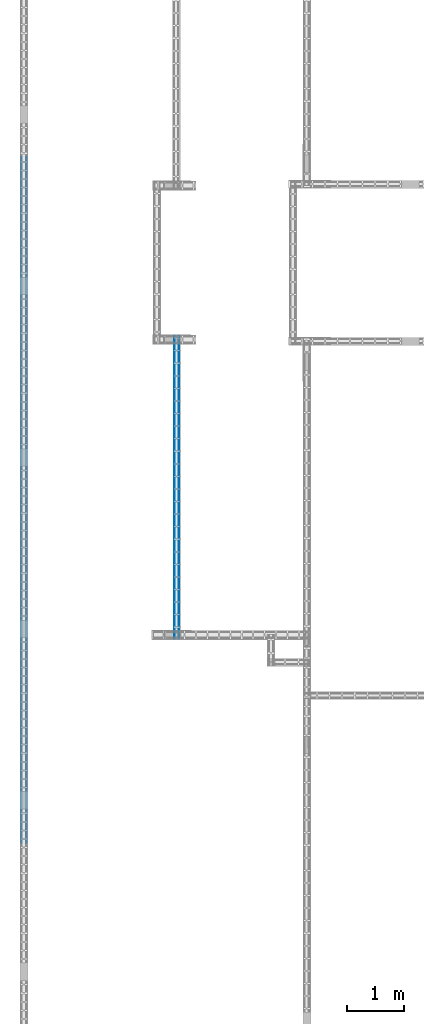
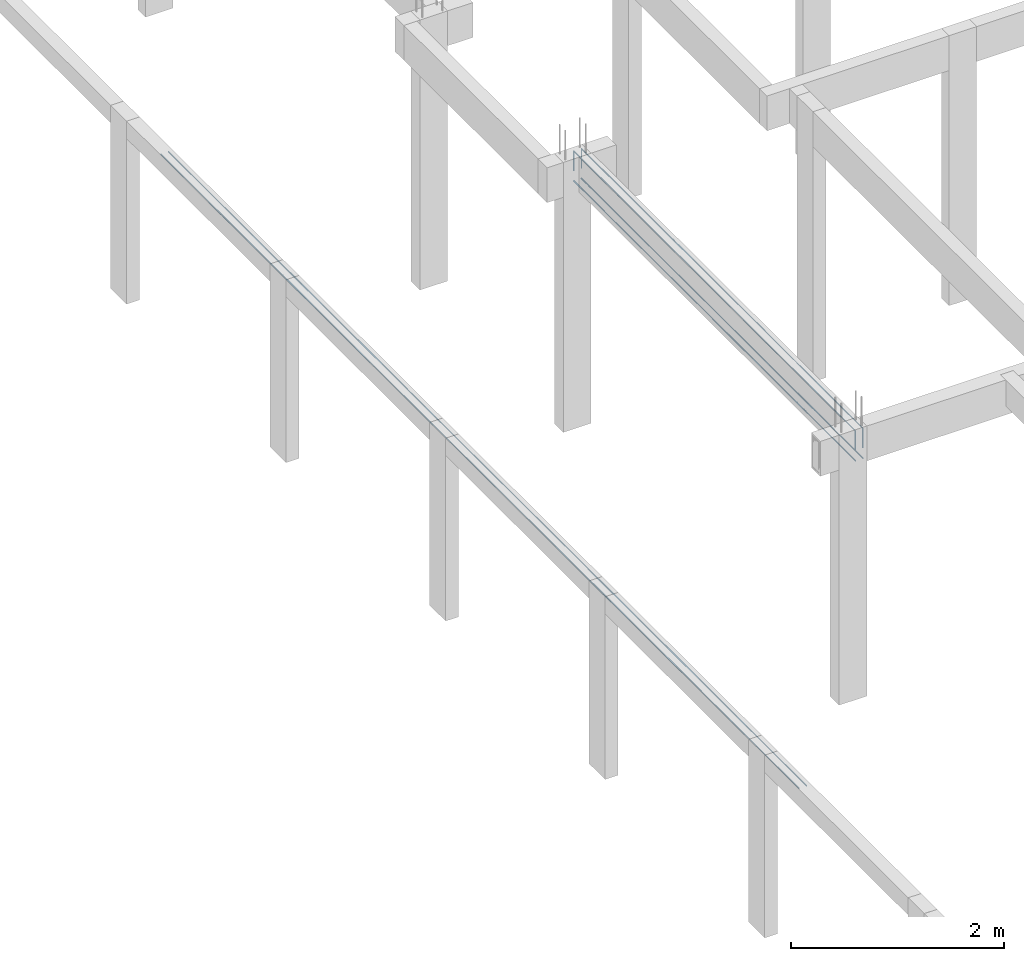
# One storey, part 67 of 236: 6 reinforcing bars.
"""IFC4 building model written with IfcOpenShell, lengths in centimetres."""

from ifc_helpers import new_model, entity, si_unit, derived_unit, frame, origin_with_axes, place, context, project, spatial, element, save


model = new_model("IFC4")

# Units and contexts
model_context = context("Model", 3, precision=1e-05, world=origin_with_axes(), identifier="Body")
ifc_project = project(units=[si_unit("LENGTHUNIT", "METRE", prefix="CENTI"), si_unit("VOLUMEUNIT", "CUBIC_METRE"), si_unit("AREAUNIT", "SQUARE_METRE"), si_unit("POWERUNIT", "WATT"), si_unit("LUMINOUSFLUXUNIT", "LUMEN"), si_unit("ELECTRICCURRENTUNIT", "AMPERE"), si_unit("PRESSUREUNIT", "PASCAL", prefix="KILO"), si_unit("MASSUNIT", "GRAM", prefix="KILO"), si_unit("PLANEANGLEUNIT", "RADIAN"), derived_unit("VOLUMETRICFLOWRATEUNIT", [(si_unit("LENGTHUNIT", "METRE"), 3), (si_unit("TIMEUNIT", "SECOND"), -1)])], contexts=[model_context])

# Site, building, storey
site_placement = place(None, frame((-4000.0, 0.0, 0.0), z_axis=(0.0, 0.0, 1.0), x_axis=(1.0, 0.0, 0.0)))
site = spatial("IfcSite", under=ifc_project, at=site_placement, Name="PADRÃO")
building_placement = place(site_placement, frame((0.0, 0.0, -14.0)))
building = spatial("IfcBuilding", under=site, at=building_placement, Name="CRECHE PRÉ-ESCOLA TIPO 2")
placement_1 = place(building_placement, origin_with_axes())
placement_2 = place(placement_1, frame((0.0, 0.0, 30.0), z_axis=(0.0, 0.0, 1.0), x_axis=(1.0, 0.0, 0.0)))
storey_placement = place(placement_2, frame((0.0, 0.0, 310.0), z_axis=(0.0, 0.0, 1.0), x_axis=(1.0, 0.0, 0.0)))
storey = spatial("IfcBuildingStorey", under=building, at=storey_placement, Name="TERREO", CompositionType="ELEMENT", Elevation=326.0)

# Reinforcing bars
for number, where, z_axis, x_axis, name in (
    (1, (280.1, 2942.005, -36.7), (0.0, 0.0, 1.0), (1.0, 0.0, 0.0), "V262 - Longitudinal inferior"),
    (2, (271.9, 2942.005, -36.7), (0.0, 0.0, 1.0), (1.0, 0.0, 0.0), "V262 - Longitudinal inferior"),
):
    element("IfcReinforcingBar", number, at=place(storey_placement, frame(where, z_axis=z_axis, x_axis=x_axis)), inside=storey, Name=name, BarLength=0.0, CrossSectionArea=5.0265482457e-05, NominalDiameter=0.8, PredefinedType="MAIN", context=model_context, shape_type="AdvancedSweptSolid", body=[
        entity("IfcSweptDiskSolid", entity("IfcCompositeCurve", [entity("IfcCompositeCurveSegment", "CONTINUOUS", True, entity("IfcPolyline", [entity("IfcCartesianPoint", [0.0, -264.995, -0.4]), entity("IfcCartesianPoint", [0.0, 264.995, -0.4])]))], False), 0.4),
    ])
for number, where, z_axis, x_axis, name in (
    (3, (280.1, 2942.005, -2.49624973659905), (0.0, 0.0, 1.0), (1.0, 0.0, 0.0), "V262 - Longitudinal superior"),
    (4, (271.9, 2942.005, -2.49624973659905), (0.0, 0.0, 1.0), (1.0, 0.0, 0.0), "V262 - Longitudinal superior"),
):
    element("IfcReinforcingBar", number, at=place(storey_placement, frame(where, z_axis=z_axis, x_axis=x_axis)), inside=storey, Name=name, BarLength=0.0, CrossSectionArea=5.0265482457e-05, NominalDiameter=0.8, PredefinedType="MAIN", context=model_context, shape_type="AdvancedSweptSolid", body=[
        entity("IfcSweptDiskSolid", entity("IfcCompositeCurve", [entity("IfcCompositeCurveSegment", "CONTINUOUS", True, entity("IfcPolyline", [entity("IfcCartesianPoint", [0.0, -264.595, -22.7014629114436]), entity("IfcCartesianPoint", [0.0, -264.595, -0.403750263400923])])), entity("IfcCompositeCurveSegment", "CONTINUOUS", True, entity("IfcPolyline", [entity("IfcCartesianPoint", [0.0, -264.595, -0.403750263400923]), entity("IfcCartesianPoint", [0.0, 264.595, -0.403750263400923])])), entity("IfcCompositeCurveSegment", "CONTINUOUS", True, entity("IfcPolyline", [entity("IfcCartesianPoint", [0.0, 264.595, -0.403750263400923]), entity("IfcCartesianPoint", [0.0, 264.595, -22.7014629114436])]))], False), 0.4),
    ])
for number, where, z_axis, x_axis, name in (
    (5, (12.6, 2919.98836963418, -102.5), (0.0, 0.0, 1.0), (1.0, 0.0, 0.0), "V324 - Longitudinal superior"),
    (6, (4.4, 2919.98836963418, -102.5), (0.0, 0.0, 1.0), (1.0, 0.0, 0.0), "V324 - Longitudinal superior"),
):
    element("IfcReinforcingBar", number, at=place(storey_placement, frame(where, z_axis=z_axis, x_axis=x_axis)), inside=storey, Name=name, BarLength=0.0, CrossSectionArea=5.0265482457e-05, NominalDiameter=0.8, PredefinedType="MAIN", context=model_context, shape_type="AdvancedSweptSolid", body=[
        entity("IfcSweptDiskSolid", entity("IfcCompositeCurve", [entity("IfcCompositeCurveSegment", "CONTINUOUS", True, entity("IfcPolyline", [entity("IfcCartesianPoint", [0.0, -600.0, -0.4]), entity("IfcCartesianPoint", [0.0, 600.0, -0.4])]))], False), 0.4),
    ])

save(model, "model.ifc")
